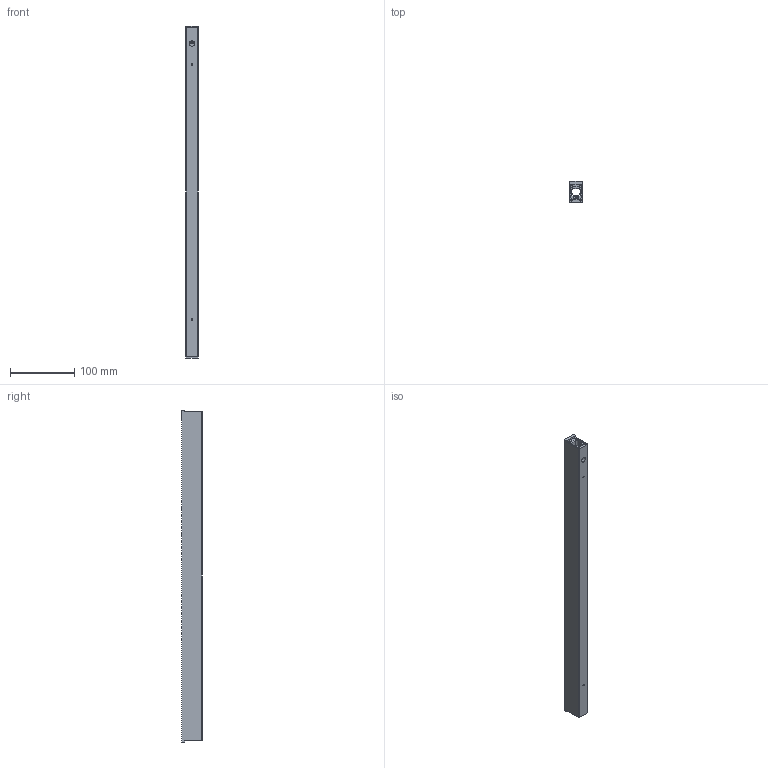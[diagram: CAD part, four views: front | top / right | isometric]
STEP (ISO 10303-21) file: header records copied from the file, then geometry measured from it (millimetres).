
FILE_DESCRIPTION((''),'2;1');
FILE_NAME('RNC_SLIM_520_SW0001','2025-07-24T11:38:42',('Piccioli'),(''),'CREO PARAMETRIC BY PTC INC, 2025010','CREO PARAMETRIC BY PTC INC, 2025010','');
FILE_SCHEMA(('CONFIG_CONTROL_DESIGN'));
Length unit declared in the file: millimetre
Products named in the file (1): RNC_SLIM_520_SW0001
Bounding box: 20 x 32.5 x 518 mm (x, y, z)
Surface area: 81894.6 mm2 (no closed solid volume)
Topology: 0 solids, 12 shells, 90 faces, 376 edges, 296 vertices
Faces by surface type: plane 51, cylinder 39
Entity records: 4750 total; most frequent: CARTESIAN_POINT 1672, DIRECTION 591, ORIENTED_EDGE 591, EDGE_CURVE 376, VERTEX_POINT 296, AXIS2_PLACEMENT_3D 197, VECTOR 197, LINE 197
